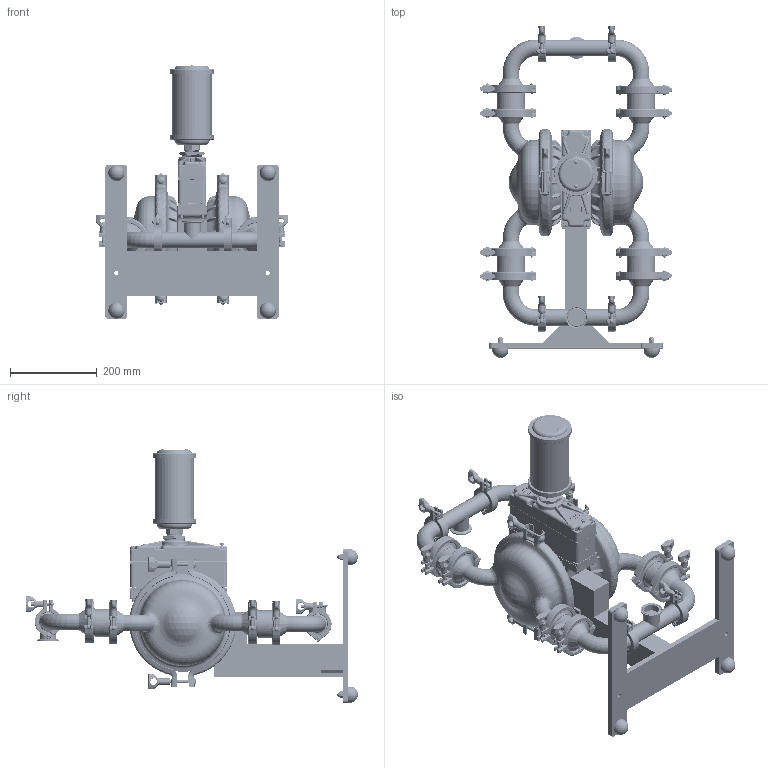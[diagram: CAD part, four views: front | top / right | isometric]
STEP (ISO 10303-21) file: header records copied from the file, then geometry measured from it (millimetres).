
FILE_DESCRIPTION (( 'STEP AP203' ), '1' );
FILE_NAME ('ps4_ss_saniflo_hs_fixed ps.STEP', '2022-07-07T07:14:29', ( '' ), ( '' ), 'SwSTEP 2.0', 'SolidWorks 2019', '' );
FILE_SCHEMA (( 'CONFIG_CONTROL_DESIGN' ));
Products named in the file (1): ps4_ss_saniflo_hs_fixed ps
Bounding box: 444.02 x 765.87 x 585.78 mm (x, y, z)
Volume: 15839222.7 mm3; surface area: 1432650.6 mm2
Topology: 1 solids, 1 shells, 10021 faces, 25314 edges, 15391 vertices
Faces by surface type: plane 3772, cylinder 2082, bspline 1881, torus 1286, cone 605, sphere 395
Entity records: 557581 total; most frequent: CARTESIAN_POINT 332214, ORIENTED_EDGE 50126, DIRECTION 43024, EDGE_CURVE 25063, AXIS2_PLACEMENT_3D 15595, VERTEX_POINT 15335, LINE 11834, VECTOR 11834
